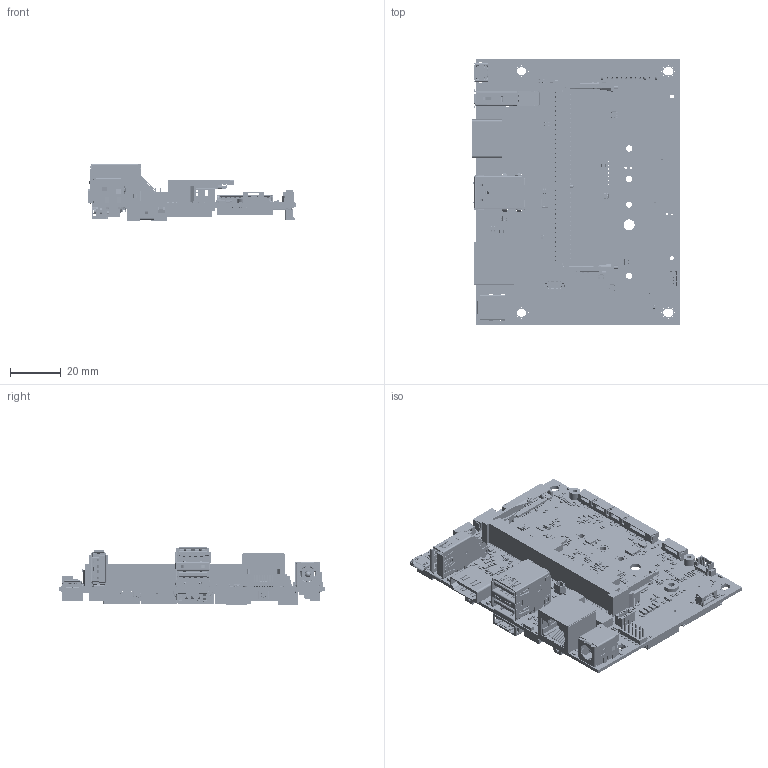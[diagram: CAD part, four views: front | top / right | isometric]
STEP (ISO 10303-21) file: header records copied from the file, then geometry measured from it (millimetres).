
FILE_DESCRIPTION(('Open CASCADE Model'),'2;1');
FILE_NAME('Open CASCADE Shape Model','2026-07-27T11:48:31',('Author'),( 'Open CASCADE'),'Open CASCADE STEP processor 7.5','Open CASCADE 7.5' ,'Unknown');
FILE_SCHEMA(('AUTOMOTIVE_DESIGN { 1 0 10303 214 1 1 1 1 }'));
Length unit declared in the file: millimetre
Products named in the file (991): PCB; Board; Open CASCADE STEP translator 7.5 1.1.1; R323; 9282933904; Extruded; 8908126208; R37; 9278429312; 8908118768; L26; 8907978592; 8907978064; D27; J5; BM02B-SRSS-TB; BMxxB-SRSS-TB(LF)(SN)_02; C115_4; 8908122656; 8908123184; L14_1; 9984903984; U6_1; 9664905984; U55; R329; R327; R324; L25; 9334553136; 9638896896; L23; C244; 8908127024; C243; C242; C236; 8908118816; C235; C234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
Assembly tree (3188 placements, depth 4):
  PCB
    Board
      Open CASCADE STEP translator 7.5 1.1.1
    R323
      9282933904
        Extruded
      8908126208  x2
        Extruded
    R37
      9278429312
        Extruded
      8908118768  x2
        Extruded
    L26
      8907978592  x2
        Extruded
      8907978064
        Extruded
    D27
      9278429312
        Extruded
      8908118768  x2
        Extruded
    J5
      BM02B-SRSS-TB
        BMxxB-SRSS-TB(LF)(SN)_02
    C115_4
      8908122656
        Extruded
      8908123184  x2
        Extruded
    L14_1
      9984903984
        Extruded
    U6_1
      9664905984
        Extruded
    U55
      9664905984
        Extruded
    R329
      8907978592  x2
        Extruded
      8907978064
        Extruded
    R327
      9278429312
        Extruded
      8908118768  x2
        Extruded
    R324
      9278429312
        Extruded
      8908118768  x2
        Extruded
    L25
      9334553136  x2
        Extruded
      9638896896
        Extruded
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Bounding box: 81.56 x 104.6 x 23.02 mm (x, y, z)
Volume: 30133.6 mm3; surface area: 60942.3 mm2
Topology: 2425 solids, 3059 shells, 40148 faces, 105405 edges, 70811 vertices
Faces by surface type: plane 32741, cylinder 6805, bspline 398, cone 93, torus 73, sphere 34, extrusion 4
Full cylindrical faces by diameter (mm): 0.09 x4, 0.4 x32, 0.46 x4, 0.5 x10, 0.6 x9, 0.7 x28, 0.8 x6, 0.85 x2, 0.9 x7, 0.94 x4, 1 x12, 1.02 x4, 1.1 x5, 1.3 x2, 1.4 x4, 1.567 x2, 1.6 x2, 1.7 x1, 1.9 x5, 2 x2, 2.1 x2, 2.3 x4, 2.459 x4, 2.5 x2, 2.8 x2, 3 x2, 3.23 x1, 3.25 x1, 4.2 x4, 4.35 x2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
Entity records: 774960 total; most frequent: CARTESIAN_POINT 147782, ORIENTED_EDGE 121820, DIRECTION 119769, EDGE_CURVE 62704, VECTOR 48749, LINE 48745, VERTEX_POINT 42537, AXIS2_PLACEMENT_3D 35510
